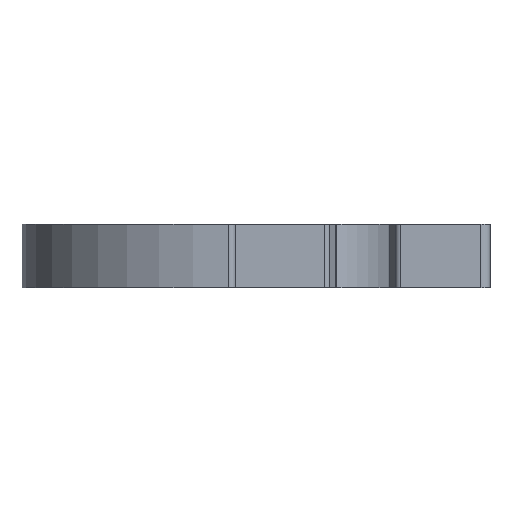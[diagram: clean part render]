
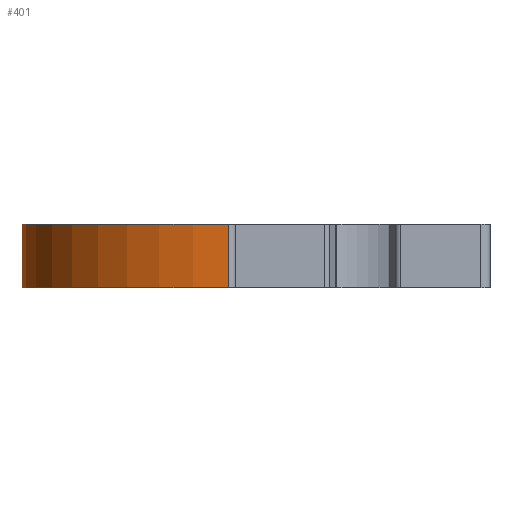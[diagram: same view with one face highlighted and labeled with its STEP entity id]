
A CAD part, front view. The second image highlights one B-rep face of the part: STEP entity #401.
In plain terms, the highlighted cylindrical face has radius 33.5 mm (diameter 67 mm), a partial arc.
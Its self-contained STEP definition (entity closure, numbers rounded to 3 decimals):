
#80 = VERTEX_POINT ( 'NONE', #3169 ) ;
#401 = ADVANCED_FACE ( 'NONE', ( #2413 ), #3652, .T. ) ;
#532 = DIRECTION ( 'NONE',  ( 0., 0., 1. ) ) ;
#569 = CARTESIAN_POINT ( 'NONE',  ( 28.969, -3.484, -10. ) ) ;
#757 = ORIENTED_EDGE ( 'NONE', *, *, #982, .T. ) ;
#813 = EDGE_LOOP ( 'NONE', ( #2760, #1593, #3421, #757 ) ) ;
#826 = VERTEX_POINT ( 'NONE', #3343 ) ;
#982 = EDGE_CURVE ( 'NONE', #2244, #826, #1251, .T. ) ;
#1197 = DIRECTION ( 'NONE',  ( 1., 0., 0. ) ) ;
#1225 = DIRECTION ( 'NONE',  ( 0., 0., 1. ) ) ;
#1250 = EDGE_CURVE ( 'NONE', #2094, #2244, #3283, .T. ) ;
#1251 = LINE ( 'NONE', #2866, #2624 ) ;
#1593 = ORIENTED_EDGE ( 'NONE', *, *, #1678, .F. ) ;
#1678 = EDGE_CURVE ( 'NONE', #2094, #80, #2729, .T. ) ;
#2022 = CARTESIAN_POINT ( 'NONE',  ( -3.484, 28.969, -10. ) ) ;
#2094 = VERTEX_POINT ( 'NONE', #2022 ) ;
#2148 = AXIS2_PLACEMENT_3D ( 'NONE', #3405, #1225, #2490 ) ;
#2244 = VERTEX_POINT ( 'NONE', #569 ) ;
#2413 = FACE_OUTER_BOUND ( 'NONE', #813, .T. ) ;
#2489 = DIRECTION ( 'NONE',  ( 0., 0., 1. ) ) ;
#2490 = DIRECTION ( 'NONE',  ( 1., 0., 0. ) ) ;
#2624 = VECTOR ( 'NONE', #2489, 1000. ) ;
#2727 = CARTESIAN_POINT ( 'NONE',  ( 30., 30., -10. ) ) ;
#2729 = LINE ( 'NONE', #3327, #3843 ) ;
#2760 = ORIENTED_EDGE ( 'NONE', *, *, #3142, .F. ) ;
#2866 = CARTESIAN_POINT ( 'NONE',  ( 28.969, -3.484, -10. ) ) ;
#3084 = AXIS2_PLACEMENT_3D ( 'NONE', #4020, #3335, #1197 ) ;
#3142 = EDGE_CURVE ( 'NONE', #80, #826, #3928, .T. ) ;
#3169 = CARTESIAN_POINT ( 'NONE',  ( -3.484, 28.969, 0. ) ) ;
#3283 = CIRCLE ( 'NONE', #3084, 33.5 ) ;
#3302 = DIRECTION ( 'NONE',  ( 0., 0., 1. ) ) ;
#3327 = CARTESIAN_POINT ( 'NONE',  ( -3.484, 28.969, -10. ) ) ;
#3335 = DIRECTION ( 'NONE',  ( 0., 0., 1. ) ) ;
#3343 = CARTESIAN_POINT ( 'NONE',  ( 28.969, -3.484, 0. ) ) ;
#3405 = CARTESIAN_POINT ( 'NONE',  ( 30., 30., 0. ) ) ;
#3421 = ORIENTED_EDGE ( 'NONE', *, *, #1250, .T. ) ;
#3652 = CYLINDRICAL_SURFACE ( 'NONE', #3933, 33.5 ) ;
#3672 = DIRECTION ( 'NONE',  ( 1., 0., 0. ) ) ;
#3843 = VECTOR ( 'NONE', #3302, 1000. ) ;
#3928 = CIRCLE ( 'NONE', #2148, 33.5 ) ;
#3933 = AXIS2_PLACEMENT_3D ( 'NONE', #2727, #532, #3672 ) ;
#4020 = CARTESIAN_POINT ( 'NONE',  ( 30., 30., -10. ) ) ;
